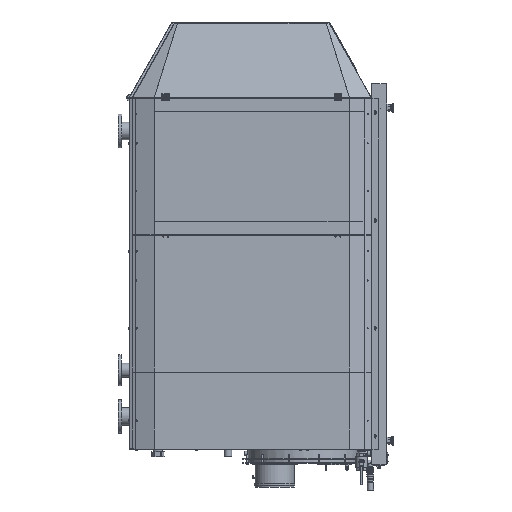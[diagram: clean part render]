
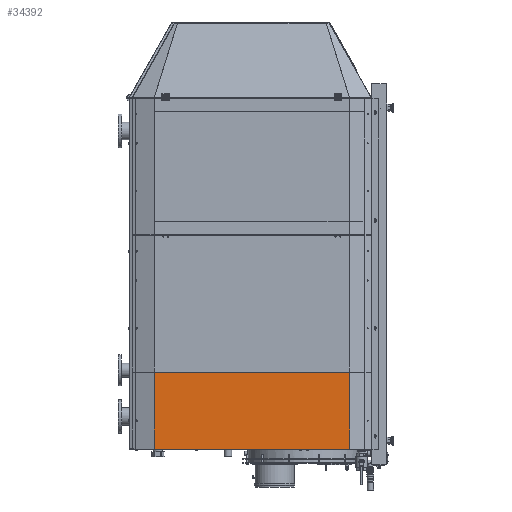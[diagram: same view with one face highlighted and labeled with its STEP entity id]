
A CAD part, left-side view. The second image highlights one B-rep face of the part: STEP entity #34392.
In plain terms, the highlighted planar face has unit normal (-1, 0, 0).
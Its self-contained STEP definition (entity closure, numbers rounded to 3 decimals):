
#1380 = ORIENTED_EDGE ( 'NONE', *, *, #56975, .T. ) ;
#3831 = CARTESIAN_POINT ( 'NONE',  ( -475.909, -508.329, 437.7 ) ) ;
#6088 = LINE ( 'NONE', #24191, #13874 ) ;
#13874 = VECTOR ( 'NONE', #15372, 1000. ) ;
#15372 = DIRECTION ( 'NONE',  ( 0., 0., 1. ) ) ;
#17975 = EDGE_CURVE ( 'NONE', #56001, #27333, #87237, .T. ) ;
#24191 = CARTESIAN_POINT ( 'NONE',  ( -475.909, -508.329, -61. ) ) ;
#25626 = ORIENTED_EDGE ( 'NONE', *, *, #34011, .F. ) ;
#25785 = PLANE ( 'NONE',  #60232 ) ;
#26314 = FACE_OUTER_BOUND ( 'NONE', #43604, .T. ) ;
#27333 = VERTEX_POINT ( 'NONE', #34962 ) ;
#29635 = VERTEX_POINT ( 'NONE', #31755 ) ;
#30705 = DIRECTION ( 'NONE',  ( 0., 1., 0. ) ) ;
#31755 = CARTESIAN_POINT ( 'NONE',  ( -475.909, 759.236, 437.7 ) ) ;
#33158 = LINE ( 'NONE', #57001, #65368 ) ;
#33551 = CARTESIAN_POINT ( 'NONE',  ( -475.909, -508.347, -61. ) ) ;
#34011 = EDGE_CURVE ( 'NONE', #27333, #29635, #33158, .T. ) ;
#34392 = ADVANCED_FACE ( 'NONE', ( #26314 ), #25785, .F. ) ;
#34962 = CARTESIAN_POINT ( 'NONE',  ( -475.909, 759.236, -59.7 ) ) ;
#41861 = DIRECTION ( 'NONE',  ( 1., 0., 0. ) ) ;
#43604 = EDGE_LOOP ( 'NONE', ( #92413, #25626, #88559, #1380 ) ) ;
#47811 = CARTESIAN_POINT ( 'NONE',  ( -475.909, -508.329, -59.7 ) ) ;
#53632 = VECTOR ( 'NONE', #98743, 1000. ) ;
#55677 = VECTOR ( 'NONE', #30705, 1000. ) ;
#56001 = VERTEX_POINT ( 'NONE', #97307 ) ;
#56975 = EDGE_CURVE ( 'NONE', #56001, #77582, #6088, .T. ) ;
#57001 = CARTESIAN_POINT ( 'NONE',  ( -475.909, 759.236, -61. ) ) ;
#58550 = EDGE_CURVE ( 'NONE', #77582, #29635, #74861, .T. ) ;
#60232 = AXIS2_PLACEMENT_3D ( 'NONE', #33551, #41861, #65202 ) ;
#65202 = DIRECTION ( 'NONE',  ( 0., 0., 1. ) ) ;
#65368 = VECTOR ( 'NONE', #74120, 1000. ) ;
#74120 = DIRECTION ( 'NONE',  ( 0., 0., 1. ) ) ;
#74861 = LINE ( 'NONE', #3831, #53632 ) ;
#77328 = CARTESIAN_POINT ( 'NONE',  ( -475.909, -508.329, 437.7 ) ) ;
#77582 = VERTEX_POINT ( 'NONE', #77328 ) ;
#87237 = LINE ( 'NONE', #47811, #55677 ) ;
#88559 = ORIENTED_EDGE ( 'NONE', *, *, #17975, .F. ) ;
#92413 = ORIENTED_EDGE ( 'NONE', *, *, #58550, .T. ) ;
#97307 = CARTESIAN_POINT ( 'NONE',  ( -475.909, -508.329, -59.7 ) ) ;
#98743 = DIRECTION ( 'NONE',  ( 0., 1., 0. ) ) ;
